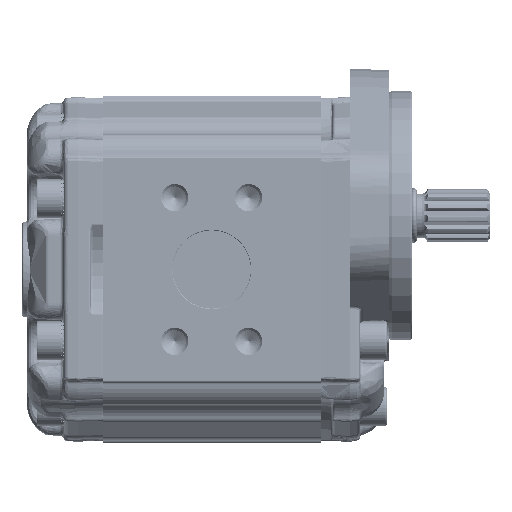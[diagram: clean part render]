
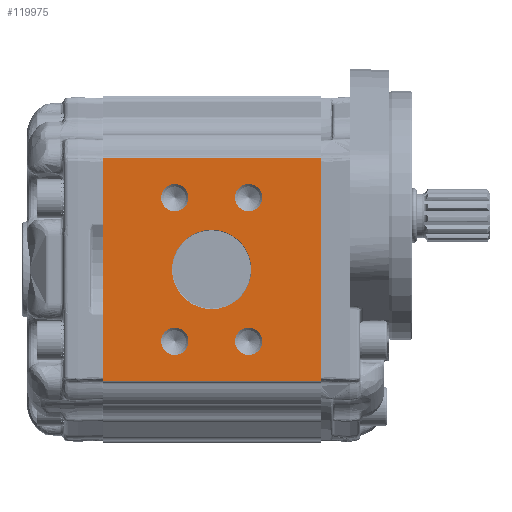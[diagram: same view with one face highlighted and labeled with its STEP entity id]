
A CAD part, left-side view. The second image highlights one B-rep face of the part: STEP entity #119975.
In plain terms, the highlighted planar face has unit normal (-1, 0, 0) as drawn and (1, 0, 0) by its records, which use the part's own axes.
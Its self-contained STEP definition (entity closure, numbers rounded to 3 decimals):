
#7428=PLANE('',#126415);
#10209=LINE('',#218245,#15028);
#10220=LINE('',#218329,#15039);
#10266=LINE('',#218487,#15085);
#10267=LINE('',#218488,#15086);
#15028=VECTOR('',#139841,1000.);
#15039=VECTOR('',#139916,1000.);
#15085=VECTOR('',#140086,1000.);
#15086=VECTOR('',#140087,1000.);
#30800=ORIENTED_EDGE('',*,*,#51977,.F.);
#30801=ORIENTED_EDGE('',*,*,#51976,.F.);
#30802=ORIENTED_EDGE('',*,*,#51975,.F.);
#30803=ORIENTED_EDGE('',*,*,#51974,.F.);
#30804=ORIENTED_EDGE('',*,*,#52105,.T.);
#30805=ORIENTED_EDGE('',*,*,#51980,.F.);
#30806=ORIENTED_EDGE('',*,*,#52106,.T.);
#30807=ORIENTED_EDGE('',*,*,#52022,.F.);
#30808=ORIENTED_EDGE('',*,*,#52107,.T.);
#51974=EDGE_CURVE('',#63521,#63521,#70259,.F.);
#51975=EDGE_CURVE('',#63522,#63522,#70260,.F.);
#51976=EDGE_CURVE('',#63523,#63523,#70261,.F.);
#51977=EDGE_CURVE('',#63524,#63524,#70262,.F.);
#51980=EDGE_CURVE('',#63527,#63528,#10209,.T.);
#52022=EDGE_CURVE('',#63569,#63570,#10220,.T.);
#52105=EDGE_CURVE('',#63618,#63618,#70332,.F.);
#52106=EDGE_CURVE('',#63527,#63570,#10266,.F.);
#52107=EDGE_CURVE('',#63569,#63528,#10267,.F.);
#63521=VERTEX_POINT('',#218229);
#63522=VERTEX_POINT('',#218232);
#63523=VERTEX_POINT('',#218235);
#63524=VERTEX_POINT('',#218238);
#63527=VERTEX_POINT('',#218244);
#63528=VERTEX_POINT('',#218246);
#63569=VERTEX_POINT('',#218330);
#63570=VERTEX_POINT('',#218331);
#63618=VERTEX_POINT('',#218486);
#70259=CIRCLE('',#126314,5.575);
#70260=CIRCLE('',#126316,5.575);
#70261=CIRCLE('',#126318,5.575);
#70262=CIRCLE('',#126320,5.575);
#70332=CIRCLE('',#126416,16.2);
#74736=EDGE_LOOP('',(#30800));
#74737=EDGE_LOOP('',(#30801));
#74738=EDGE_LOOP('',(#30802));
#74739=EDGE_LOOP('',(#30803));
#74740=EDGE_LOOP('',(#30804));
#74741=EDGE_LOOP('',(#30805,#30806,#30807,#30808));
#79950=FACE_BOUND('',#74736,.T.);
#79951=FACE_BOUND('',#74737,.T.);
#79952=FACE_BOUND('',#74738,.T.);
#79953=FACE_BOUND('',#74739,.T.);
#79954=FACE_BOUND('',#74740,.T.);
#79955=FACE_BOUND('',#74741,.T.);
#119975=ADVANCED_FACE('',(#79950,#79951,#79952,#79953,#79954,#79955),#7428,
 .T.);
#126314=AXIS2_PLACEMENT_3D('',#218228,#139822,#139823);
#126316=AXIS2_PLACEMENT_3D('',#218231,#139826,#139827);
#126318=AXIS2_PLACEMENT_3D('',#218234,#139830,#139831);
#126320=AXIS2_PLACEMENT_3D('',#218237,#139834,#139835);
#126415=AXIS2_PLACEMENT_3D('',#218484,#140082,#140083);
#126416=AXIS2_PLACEMENT_3D('',#218485,#140084,#140085);
#139822=DIRECTION('',(-1.,0.,0.));
#139823=DIRECTION('',(0.,0.,-1.));
#139826=DIRECTION('',(-1.,0.,0.));
#139827=DIRECTION('',(0.,0.,-1.));
#139830=DIRECTION('',(-1.,0.,0.));
#139831=DIRECTION('',(0.,0.,-1.));
#139834=DIRECTION('',(-1.,0.,0.));
#139835=DIRECTION('',(0.,0.,-1.));
#139841=DIRECTION('',(0.,0.,-1.));
#139916=DIRECTION('',(0.,0.,1.));
#140082=DIRECTION('',(1.,0.,0.));
#140083=DIRECTION('',(0.,0.,1.));
#140084=DIRECTION('',(1.,0.,0.));
#140085=DIRECTION('',(0.,0.,1.));
#140086=DIRECTION('',(0.,1.,0.));
#140087=DIRECTION('',(0.,-1.,0.));
#218228=CARTESIAN_POINT('',(57.5,59.59,29.36));
#218229=CARTESIAN_POINT('',(57.5,59.59,23.785));
#218231=CARTESIAN_POINT('',(57.5,29.41,29.36));
#218232=CARTESIAN_POINT('',(57.5,29.41,23.785));
#218234=CARTESIAN_POINT('',(57.5,59.59,-29.36));
#218235=CARTESIAN_POINT('',(57.5,59.59,-34.935));
#218237=CARTESIAN_POINT('',(57.5,29.41,-29.36));
#218238=CARTESIAN_POINT('',(57.5,29.41,-34.935));
#218244=CARTESIAN_POINT('',(57.5,89.,45.5));
#218245=CARTESIAN_POINT('',(57.5,89.,91.388));
#218246=CARTESIAN_POINT('',(57.5,89.,-45.5));
#218329=CARTESIAN_POINT('',(57.5,0.,-44.978));
#218330=CARTESIAN_POINT('',(57.5,0.,-45.5));
#218331=CARTESIAN_POINT('',(57.5,0.,45.5));
#218484=CARTESIAN_POINT('',(57.5,-140.475,91.388));
#218485=CARTESIAN_POINT('',(57.5,44.5,0.));
#218486=CARTESIAN_POINT('',(57.5,44.5,16.2));
#218487=CARTESIAN_POINT('',(57.5,-140.475,45.5));
#218488=CARTESIAN_POINT('',(57.5,-140.475,-45.5));
